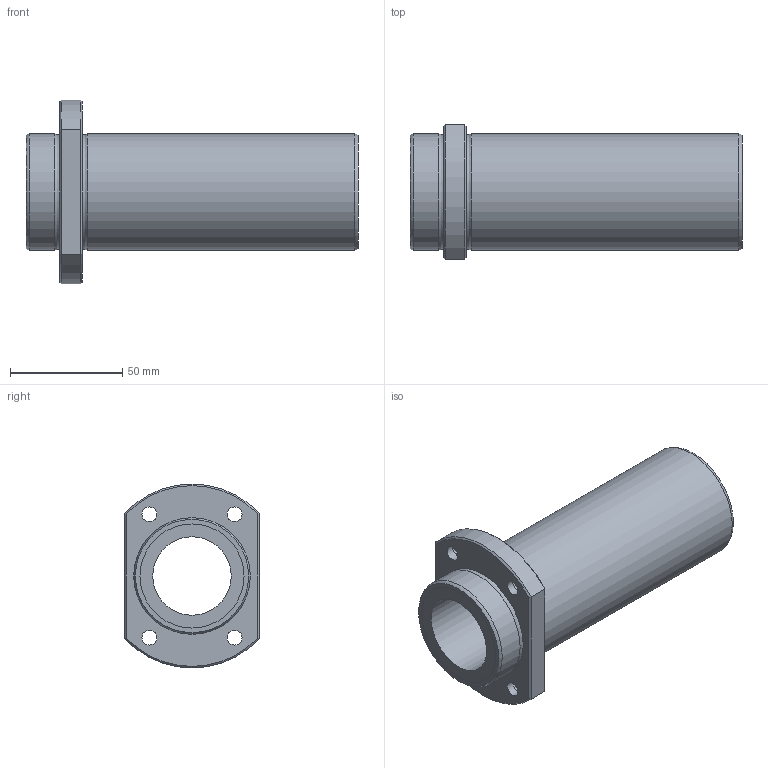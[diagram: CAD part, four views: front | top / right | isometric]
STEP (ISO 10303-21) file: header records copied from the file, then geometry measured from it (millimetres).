
FILE_DESCRIPTION((''),'2;1');
FILE_NAME('C:\Documents and Settings\土屋\My Documents\土屋移動用フォルダ\製品 (図面)\カタログ用3D\変換ファイル\OZAK_3D-CAD(STEP形式)\Part1.-Linear Bearings_ﾘﾆｱﾍﾞｱﾘﾝｸﾞ\09_Maintenance Free_ﾒｲﾝﾃﾅﾝｽﾌﾘｰ\L2017-09-21T14:36:25','2017-09-21T14:36:25',('y'),(''),'Autodesk Inventor 11','Autodesk Inventor 11','');
FILE_SCHEMA(('AUTOMOTIVE_DESIGN { 1 0 10303 214 1 1 1 1 }'));
Length unit declared in the file: millimetre
Products named in the file (1): LFDTB-MF
Bounding box: 148 x 60 x 82 mm (x, y, z)
Volume: 191403.1 mm3; surface area: 48894.8 mm2
Topology: 1 solids, 1 shells, 39 faces, 75 edges, 46 vertices
Faces by surface type: bspline 14, plane 12, cylinder 7, cone 4, torus 2
Full cylindrical faces by diameter (mm): 35 x1, 46.4 x2, 52 x2
Entity records: 1177 total; most frequent: CARTESIAN_POINT 440, DIRECTION 140, ORIENTED_EDGE 116, EDGE_LOOP 74, AXIS2_PLACEMENT_3D 64, EDGE_CURVE 58, VERTEX_POINT 46, FACE_OUTER_BOUND 39
